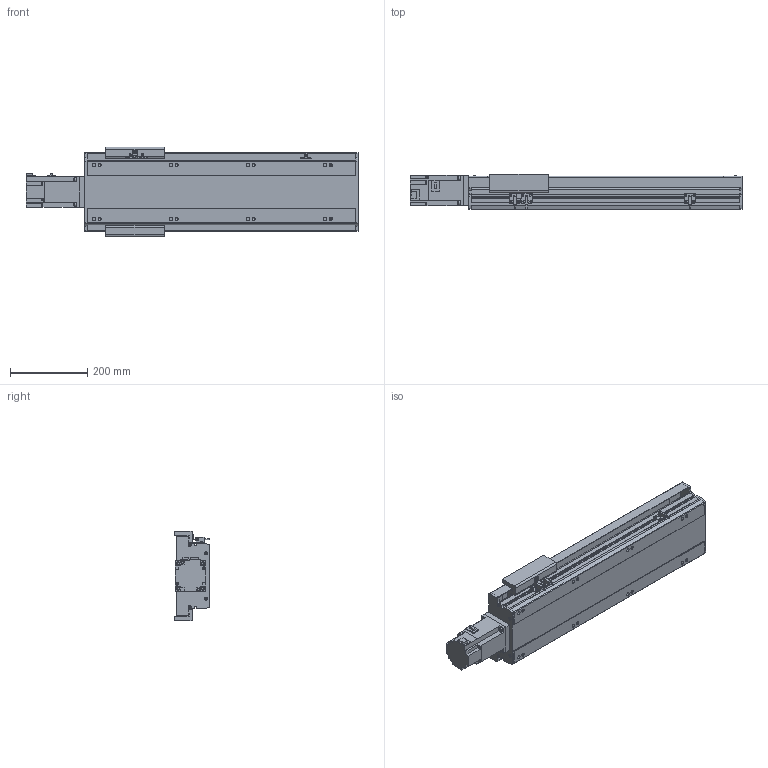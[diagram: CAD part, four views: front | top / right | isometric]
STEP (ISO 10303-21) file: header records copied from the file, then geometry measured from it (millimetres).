
FILE_DESCRIPTION(/* description */ ('STEP AP214'),/* implementation_level */ '2;1');
FILE_NAME(/* name */ 'PSM170-L10-S450-BC-T75-C1-N(0)',/* time_stamp */ '2022-06-13T03:24:13+02:00',/* author */ ('License CC BY-ND 4.0'),/* organization */ ('CADENAS'),/* preprocessor_version */ 'ST-DEVELOPER v18.102',/* originating_system */ 'PARTsolutions',/* authorisation */ ' ');
FILE_SCHEMA (('AUTOMOTIVE_DESIGN {1 0 10303 214 3 1 1}'));
Length unit declared in the file: millimetre
Products named in the file (8): PSM170-L10-S450-BC-T75-C1-N(0); PSM-Sensor; PSM140-S450-692.5; T75-p1; PSM170_body2; PSM170_body3; PSM170-S450_body1; PSM170-L10-S450-BC-T75-C1-N(0)_dummy
Assembly tree (11 placements, depth 2):
  PSM170-L10-S450-BC-T75-C1-N(0)
    PSM-Sensor  x3
    PSM140-S450-692.5  x3
    T75-p1
    PSM170_body2
    PSM170_body3
    PSM170-S450_body1
    PSM170-L10-S450-BC-T75-C1-N(0)_dummy
Bounding box: 861.3 x 92 x 233 mm (x, y, z)
Volume: 5383398.3 mm3; surface area: 1018846.4 mm2
Topology: 10 solids, 10 shells, 1003 faces, 2670 edges, 1739 vertices
Faces by surface type: plane 644, cylinder 289, cone 56, torus 14
Full cylindrical faces by diameter (mm): 2.8 x3, 3.08 x1, 4.134 x4, 4.5 x12, 4.6 x3, 5.7 x2, 6 x9, 6.647 x16, 7 x8, 7.6 x4, 8 x8, 8.5 x8, 10 x4, 14 x8, 45 x1, 70 x1
Entity records: 26167 total; most frequent: CARTESIAN_POINT 4726, DIRECTION 4396, ORIENTED_EDGE 4204, EDGE_CURVE 2102, AXIS2_PLACEMENT_3D 1473, VERTEX_POINT 1466, LINE 1450, VECTOR 1450
